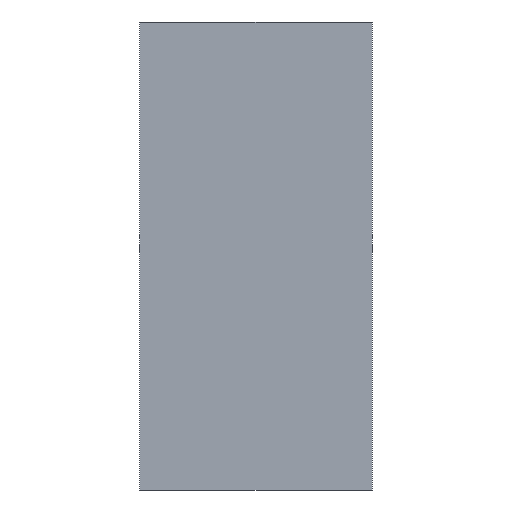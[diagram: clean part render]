
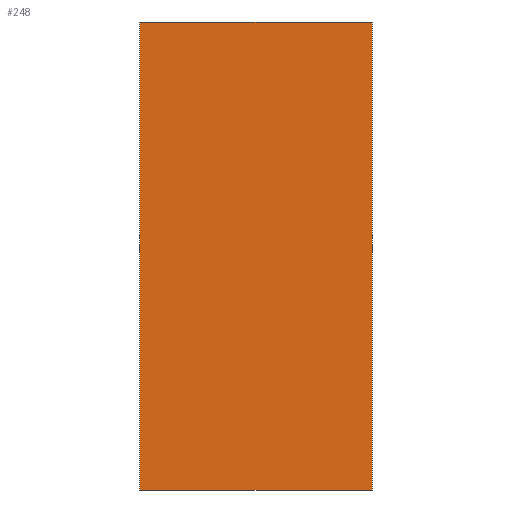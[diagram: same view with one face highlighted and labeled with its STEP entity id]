
A CAD part, front view. The second image highlights one B-rep face of the part: STEP entity #248.
In plain terms, the highlighted planar face has unit normal (0, -1, 0).
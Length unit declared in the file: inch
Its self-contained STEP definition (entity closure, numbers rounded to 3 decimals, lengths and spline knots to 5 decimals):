
#76=FACE_OUTER_BOUND('',#88,.T.);
#88=EDGE_LOOP('',(#203,#204,#205,#206));
#95=LINE('',#422,#119);
#99=LINE('',#430,#123);
#102=LINE('',#436,#126);
#105=LINE('',#441,#129);
#119=VECTOR('',#343,0.3937);
#123=VECTOR('',#349,0.3937);
#126=VECTOR('',#354,0.3937);
#129=VECTOR('',#359,0.3937);
#143=VERTEX_POINT('',#420);
#144=VERTEX_POINT('',#421);
#147=VERTEX_POINT('',#429);
#149=VERTEX_POINT('',#435);
#159=EDGE_CURVE('',#143,#144,#95,.T.);
#163=EDGE_CURVE('',#147,#143,#99,.T.);
#166=EDGE_CURVE('',#149,#147,#102,.T.);
#169=EDGE_CURVE('',#144,#149,#105,.T.);
#203=ORIENTED_EDGE('',*,*,#169,.F.);
#204=ORIENTED_EDGE('',*,*,#159,.F.);
#205=ORIENTED_EDGE('',*,*,#163,.F.);
#206=ORIENTED_EDGE('',*,*,#166,.F.);
#236=PLANE('',#316);
#248=ADVANCED_FACE('',(#76),#236,.F.);
#316=AXIS2_PLACEMENT_3D('',#444,#363,#364);
#343=DIRECTION('',(0.,0.,-1.));
#349=DIRECTION('',(1.,0.,0.));
#354=DIRECTION('',(0.,0.,1.));
#359=DIRECTION('',(-1.,0.,0.));
#363=DIRECTION('center_axis',(0.,1.,0.));
#364=DIRECTION('ref_axis',(0.,0.,1.));
#420=CARTESIAN_POINT('',(11.875,0.,23.875));
#421=CARTESIAN_POINT('',(11.875,0.,-23.875));
#422=CARTESIAN_POINT('',(11.875,0.,23.875));
#429=CARTESIAN_POINT('',(-11.875,0.,23.875));
#430=CARTESIAN_POINT('',(-11.875,0.,23.875));
#435=CARTESIAN_POINT('',(-11.875,0.,-23.875));
#436=CARTESIAN_POINT('',(-11.875,0.,-23.875));
#441=CARTESIAN_POINT('',(11.875,0.,-23.875));
#444=CARTESIAN_POINT('Origin',(0.,0.,0.));
